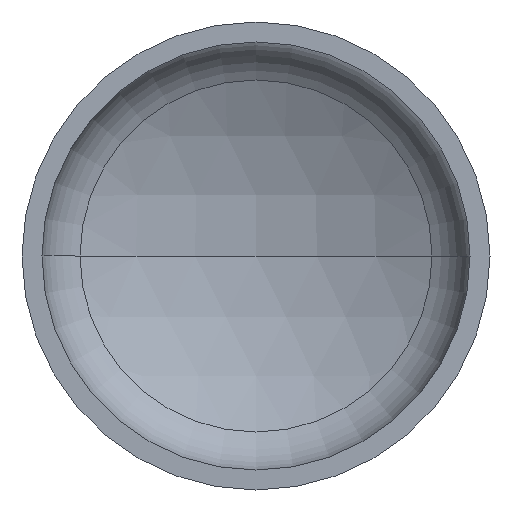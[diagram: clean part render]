
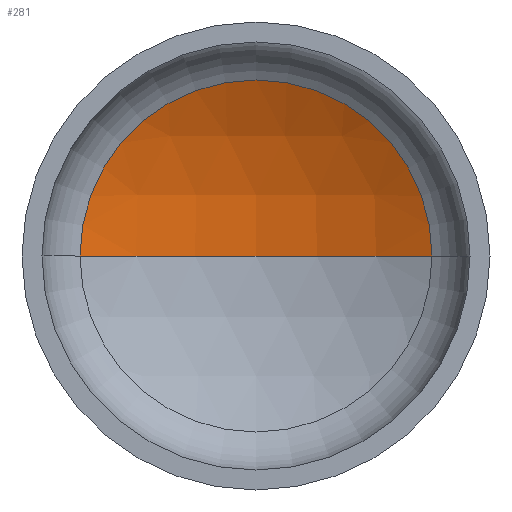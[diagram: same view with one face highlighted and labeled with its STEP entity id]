
A CAD part, front view. The second image highlights one B-rep face of the part: STEP entity #281.
In plain terms, the highlighted spherical face has radius 1200 mm.
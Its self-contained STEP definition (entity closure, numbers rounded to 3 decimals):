
#12 = DIRECTION ( 'NONE',  ( -1., 0., 0. ) ) ;
#14 = DIRECTION ( 'NONE',  ( 0., -1., 0. ) ) ;
#16 = AXIS2_PLACEMENT_3D ( 'NONE', #88, #109, #387 ) ;
#25 = EDGE_LOOP ( 'NONE', ( #121, #105, #91 ) ) ;
#36 = AXIS2_PLACEMENT_3D ( 'NONE', #322, #351, #206 ) ;
#37 = AXIS2_PLACEMENT_3D ( 'NONE', #132, #40, #12 ) ;
#38 = AXIS2_PLACEMENT_3D ( 'NONE', #262, #14, #277 ) ;
#40 = DIRECTION ( 'NONE',  ( 0., 0., -1. ) ) ;
#63 = VERTEX_POINT ( 'NONE', #253 ) ;
#88 = CARTESIAN_POINT ( 'NONE',  ( 0., -736.133, 0. ) ) ;
#91 = ORIENTED_EDGE ( 'NONE', *, *, #96, .T. ) ;
#96 = EDGE_CURVE ( 'NONE', #63, #106, #155, .T. ) ;
#97 = EDGE_CURVE ( 'NONE', #142, #63, #276, .T. ) ;
#105 = ORIENTED_EDGE ( 'NONE', *, *, #97, .T. ) ;
#106 = VERTEX_POINT ( 'NONE', #160 ) ;
#109 = DIRECTION ( 'NONE',  ( 0., 0., -1. ) ) ;
#114 = EDGE_CURVE ( 'NONE', #142, #106, #340, .T. ) ;
#121 = ORIENTED_EDGE ( 'NONE', *, *, #114, .F. ) ;
#132 = CARTESIAN_POINT ( 'NONE',  ( 0., -736.133, 0. ) ) ;
#142 = VERTEX_POINT ( 'NONE', #181 ) ;
#155 = CIRCLE ( 'NONE', #38, 564.124 ) ;
#160 = CARTESIAN_POINT ( 'NONE',  ( -564.124, 323.001, 0. ) ) ;
#181 = CARTESIAN_POINT ( 'NONE',  ( 0., 463.867, 0. ) ) ;
#197 = SPHERICAL_SURFACE ( 'NONE', #16, 1200. ) ;
#206 = DIRECTION ( 'NONE',  ( 1., 0., 0. ) ) ;
#253 = CARTESIAN_POINT ( 'NONE',  ( 564.124, 323.001, 0. ) ) ;
#262 = CARTESIAN_POINT ( 'NONE',  ( 0., 323.001, 0. ) ) ;
#276 = CIRCLE ( 'NONE', #37, 1200. ) ;
#277 = DIRECTION ( 'NONE',  ( 1., 0., 0. ) ) ;
#281 = ADVANCED_FACE ( 'NONE', ( #316 ), #197, .F. ) ;
#316 = FACE_OUTER_BOUND ( 'NONE', #25, .T. ) ;
#322 = CARTESIAN_POINT ( 'NONE',  ( 0., -736.133, 0. ) ) ;
#340 = CIRCLE ( 'NONE', #36, 1200. ) ;
#351 = DIRECTION ( 'NONE',  ( 0., 0., 1. ) ) ;
#387 = DIRECTION ( 'NONE',  ( -1., 0., 0. ) ) ;
